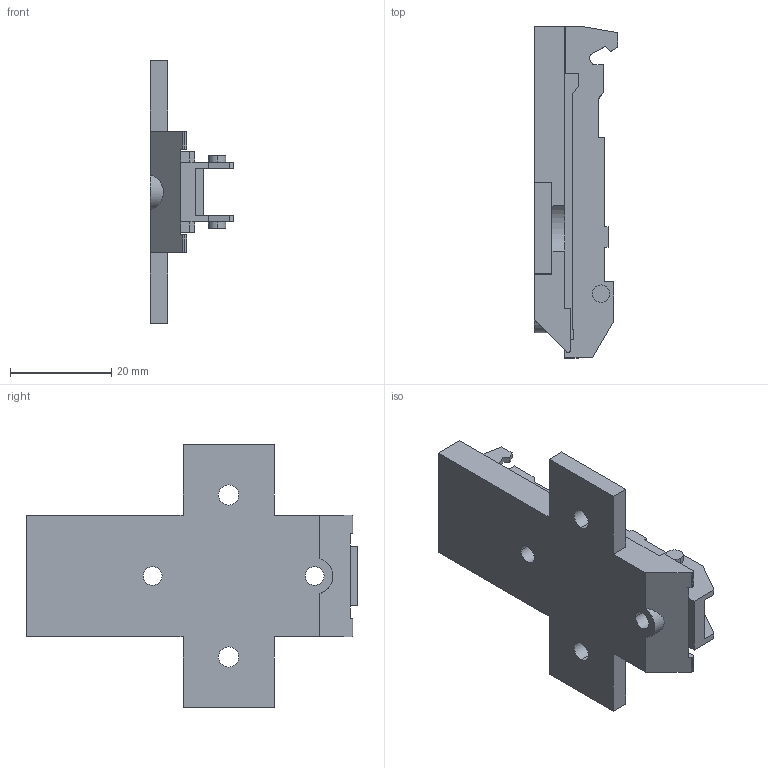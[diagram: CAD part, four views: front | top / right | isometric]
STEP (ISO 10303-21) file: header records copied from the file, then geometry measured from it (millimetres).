
FILE_DESCRIPTION (( 'STEP AP214' ), '1' );
FILE_NAME ('1D Kreuzmontageplatte_37_32_H06.STEP', '2011-08-18T13:45:42', ( '' ), ( '' ), 'SwSTEP 2.0', 'SolidWorks 2011', '' );
FILE_SCHEMA (( 'AUTOMOTIVE_DESIGN' ));
Length unit declared in the file: millimetre
Products named in the file (1): 1D Kreuzmontageplatte_37_32_H06
Bounding box: 16.5 x 65.55 x 52 mm (x, y, z)
Volume: 13973.9 mm3; surface area: 7587.6 mm2
Topology: 1 solids, 1 shells, 109 faces, 313 edges, 208 vertices
Faces by surface type: plane 88, cylinder 21
Entity records: 3582 total; most frequent: CARTESIAN_POINT 634, ORIENTED_EDGE 626, DIRECTION 573, EDGE_CURVE 313, LINE 271, VECTOR 271, VERTEX_POINT 208, AXIS2_PLACEMENT_3D 151
